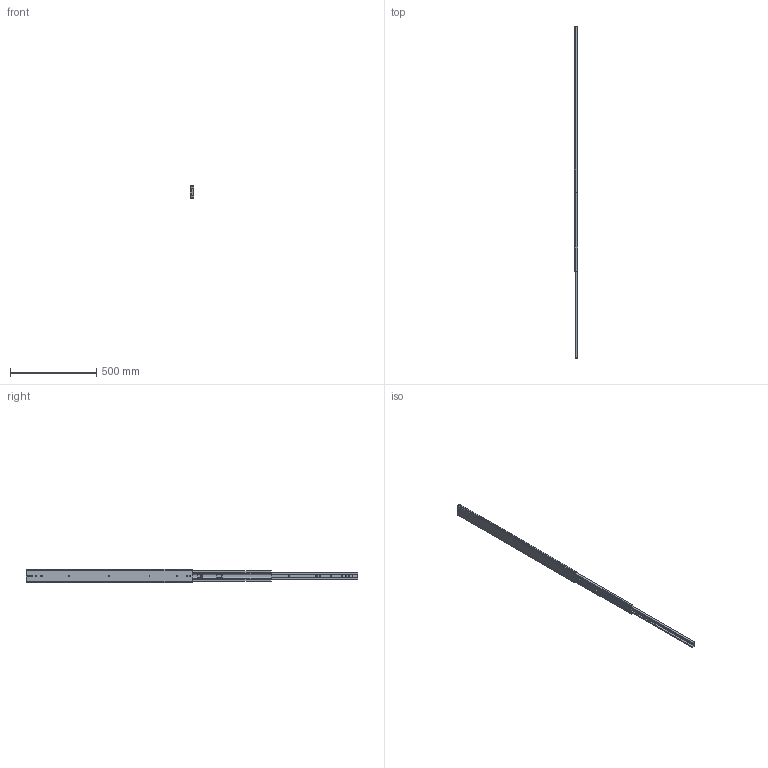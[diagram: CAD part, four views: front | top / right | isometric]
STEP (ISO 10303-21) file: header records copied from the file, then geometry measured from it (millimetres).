
FILE_DESCRIPTION(/* description */ ('Unknown'),/* implementation_level */ '2;1');
FILE_NAME(/* name */ '76J01-38 open',/* time_stamp */ '2024-07-26T16:18:49+08:00',/* author */ ('Unknown'),/* organization */ ('Unknown'),/* preprocessor_version */ 'ST-DEVELOPER v18.104',/* originating_system */ 'Solid Edge',/* authorisation */ 'Unknown');
FILE_SCHEMA (('AUTOMOTIVE_DESIGN {1 0 10303 214 3 1 1}'));
Length unit declared in the file: millimetre
Products named in the file (4): 76J01-38 open; 76J01 38 inch 內_0i; 76J01 38 吋中_; 76J01 38 ¦Tì
Assembly tree (3 placements, depth 2):
  76J01-38 open
    76J01 38 inch 內_0i
    76J01 38 吋中_
    76J01 38 ¦Tì
Bounding box: 19.3 x 1929.7 x 76.76 mm (x, y, z)
Volume: 759335 mm3; surface area: 472725.4 mm2
Topology: 3 solids, 3 shells, 193 faces, 595 edges, 402 vertices
Faces by surface type: plane 104, cylinder 89
Full cylindrical faces by diameter (mm): 5.2 x14, 7.1 x2
Entity records: 7062 total; most frequent: CARTESIAN_POINT 1149, DIRECTION 1135, ORIENTED_EDGE 1126, EDGE_CURVE 563, VERTEX_POINT 386, LINE 383, VECTOR 383, AXIS2_PLACEMENT_3D 376
